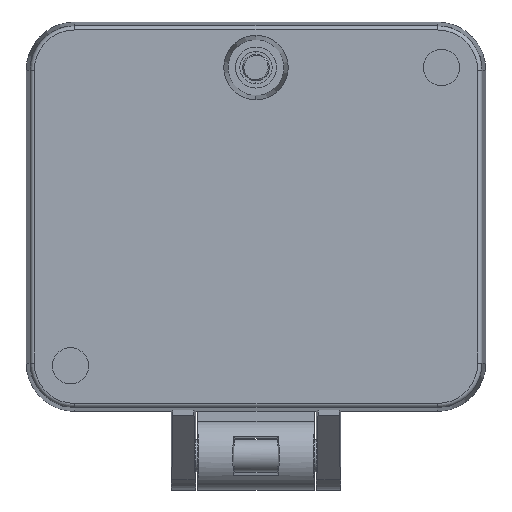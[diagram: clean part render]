
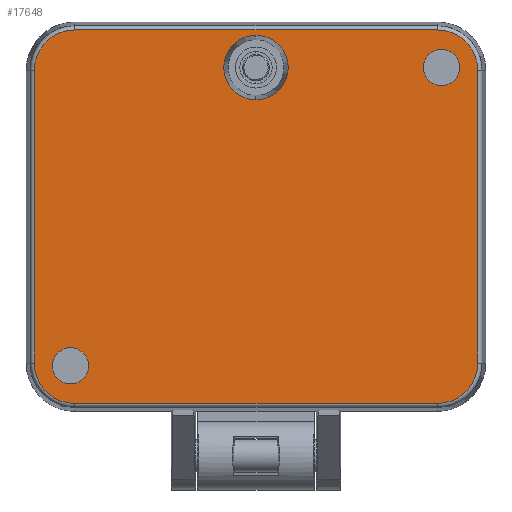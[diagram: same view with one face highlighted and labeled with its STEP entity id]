
A CAD part, front view. The second image highlights one B-rep face of the part: STEP entity #17648.
In plain terms, the highlighted planar face has unit normal (0, -1, 0).
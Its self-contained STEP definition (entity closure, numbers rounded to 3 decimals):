
#65 = CARTESIAN_POINT ( 'NONE',  ( -23., -28.4, -20.75 ) ) ;
#73 = VERTEX_POINT ( 'NONE', #16133 ) ;
#546 = FACE_BOUND ( 'NONE', #12474, .T. ) ;
#547 = DIRECTION ( 'NONE',  ( 0., -1., 0. ) ) ;
#713 = DIRECTION ( 'NONE',  ( 1., 0., 0. ) ) ;
#952 = ORIENTED_EDGE ( 'NONE', *, *, #2085, .F. ) ;
#1136 = EDGE_CURVE ( 'NONE', #1832, #6900, #7401, .T. ) ;
#1507 = CARTESIAN_POINT ( 'NONE',  ( 0., -28.4, 18.5 ) ) ;
#1562 = VECTOR ( 'NONE', #713, 1000. ) ;
#1832 = VERTEX_POINT ( 'NONE', #9852 ) ;
#1938 = AXIS2_PLACEMENT_3D ( 'NONE', #16210, #547, #16304 ) ;
#2085 = EDGE_CURVE ( 'NONE', #17286, #10731, #17857, .T. ) ;
#2104 = AXIS2_PLACEMENT_3D ( 'NONE', #14018, #11256, #15761 ) ;
#2401 = FACE_BOUND ( 'NONE', #16544, .T. ) ;
#2868 = DIRECTION ( 'NONE',  ( 0., 1., 0. ) ) ;
#3067 = CIRCLE ( 'NONE', #4820, 4. ) ;
#3241 = DIRECTION ( 'NONE',  ( 0., 1., 0. ) ) ;
#3468 = EDGE_CURVE ( 'NONE', #6900, #14501, #13398, .T. ) ;
#3479 = VERTEX_POINT ( 'NONE', #11698 ) ;
#3535 = CIRCLE ( 'NONE', #13823, 5.013 ) ;
#3707 = AXIS2_PLACEMENT_3D ( 'NONE', #7048, #3241, #4288 ) ;
#3765 = DIRECTION ( 'NONE',  ( 0., 0., 1. ) ) ;
#3933 = VECTOR ( 'NONE', #5204, 1000. ) ;
#4180 = ORIENTED_EDGE ( 'NONE', *, *, #5239, .T. ) ;
#4288 = DIRECTION ( 'NONE',  ( 0., 0., 1. ) ) ;
#4289 = CARTESIAN_POINT ( 'NONE',  ( 27.513, -28.4, -18.15 ) ) ;
#4530 = DIRECTION ( 'NONE',  ( 0., 0., 1. ) ) ;
#4815 = VERTEX_POINT ( 'NONE', #65 ) ;
#4820 = AXIS2_PLACEMENT_3D ( 'NONE', #1507, #12566, #14031 ) ;
#5126 = CIRCLE ( 'NONE', #6278, 5.013 ) ;
#5204 = DIRECTION ( 'NONE',  ( 0., 0., 1. ) ) ;
#5239 = EDGE_CURVE ( 'NONE', #6234, #3479, #12371, .T. ) ;
#5454 = EDGE_CURVE ( 'NONE', #6247, #1832, #5126, .T. ) ;
#5591 = DIRECTION ( 'NONE',  ( 0., 1., 0. ) ) ;
#5633 = EDGE_CURVE ( 'NONE', #13410, #6234, #8339, .T. ) ;
#5806 = DIRECTION ( 'NONE',  ( 0., 0., 1. ) ) ;
#5839 = ORIENTED_EDGE ( 'NONE', *, *, #3468, .T. ) ;
#6155 = ORIENTED_EDGE ( 'NONE', *, *, #10907, .T. ) ;
#6173 = CARTESIAN_POINT ( 'NONE',  ( -22.5, -28.4, 18.15 ) ) ;
#6180 = CIRCLE ( 'NONE', #17054, 2.25 ) ;
#6234 = VERTEX_POINT ( 'NONE', #4289 ) ;
#6247 = VERTEX_POINT ( 'NONE', #12755 ) ;
#6262 = DIRECTION ( 'NONE',  ( 0., 0., 1. ) ) ;
#6278 = AXIS2_PLACEMENT_3D ( 'NONE', #7565, #15937, #15757 ) ;
#6659 = EDGE_CURVE ( 'NONE', #4815, #9485, #16802, .T. ) ;
#6752 = ORIENTED_EDGE ( 'NONE', *, *, #16007, .T. ) ;
#6900 = VERTEX_POINT ( 'NONE', #9318 ) ;
#7048 = CARTESIAN_POINT ( 'NONE',  ( 23., -28.4, 18.5 ) ) ;
#7388 = ORIENTED_EDGE ( 'NONE', *, *, #6659, .T. ) ;
#7401 = LINE ( 'NONE', #17261, #14770 ) ;
#7436 = CIRCLE ( 'NONE', #16269, 2.25 ) ;
#7565 = CARTESIAN_POINT ( 'NONE',  ( -22.5, -28.4, 18.15 ) ) ;
#7711 = CARTESIAN_POINT ( 'NONE',  ( 22.5, -28.4, -23.163 ) ) ;
#7917 = ORIENTED_EDGE ( 'NONE', *, *, #11971, .T. ) ;
#8010 = FACE_BOUND ( 'NONE', #9995, .T. ) ;
#8339 = CIRCLE ( 'NONE', #10097, 5.013 ) ;
#8384 = ORIENTED_EDGE ( 'NONE', *, *, #16108, .T. ) ;
#8595 = CARTESIAN_POINT ( 'NONE',  ( 22.5, -28.4, 23.163 ) ) ;
#8734 = CARTESIAN_POINT ( 'NONE',  ( 0., -28.4, 18.5 ) ) ;
#8864 = ORIENTED_EDGE ( 'NONE', *, *, #16577, .F. ) ;
#9004 = DIRECTION ( 'NONE',  ( 0., -1., 0. ) ) ;
#9007 = LINE ( 'NONE', #7711, #1562 ) ;
#9055 = CARTESIAN_POINT ( 'NONE',  ( -23., -28.4, -16.25 ) ) ;
#9318 = CARTESIAN_POINT ( 'NONE',  ( -27.513, -28.4, -18.15 ) ) ;
#9398 = FACE_OUTER_BOUND ( 'NONE', #15337, .T. ) ;
#9485 = VERTEX_POINT ( 'NONE', #9055 ) ;
#9529 = ORIENTED_EDGE ( 'NONE', *, *, #17776, .T. ) ;
#9852 = CARTESIAN_POINT ( 'NONE',  ( -27.513, -28.4, 18.15 ) ) ;
#9995 = EDGE_LOOP ( 'NONE', ( #8384, #7388 ) ) ;
#10097 = AXIS2_PLACEMENT_3D ( 'NONE', #13877, #16833, #15446 ) ;
#10322 = CARTESIAN_POINT ( 'NONE',  ( 22.5, -28.4, 18.15 ) ) ;
#10670 = ORIENTED_EDGE ( 'NONE', *, *, #5454, .T. ) ;
#10731 = VERTEX_POINT ( 'NONE', #13914 ) ;
#10907 = EDGE_CURVE ( 'NONE', #3479, #14560, #3535, .T. ) ;
#10923 = LINE ( 'NONE', #16355, #13362 ) ;
#11256 = DIRECTION ( 'NONE',  ( 0., 1., 0. ) ) ;
#11329 = CARTESIAN_POINT ( 'NONE',  ( 23., -28.4, 18.5 ) ) ;
#11345 = DIRECTION ( 'NONE',  ( 0., -1., 0. ) ) ;
#11639 = CIRCLE ( 'NONE', #3707, 2.25 ) ;
#11698 = CARTESIAN_POINT ( 'NONE',  ( 27.513, -28.4, 18.15 ) ) ;
#11782 = DIRECTION ( 'NONE',  ( 0., 1., 0. ) ) ;
#11971 = EDGE_CURVE ( 'NONE', #16938, #73, #6180, .T. ) ;
#12371 = LINE ( 'NONE', #13656, #3933 ) ;
#12474 = EDGE_LOOP ( 'NONE', ( #952, #8864 ) ) ;
#12566 = DIRECTION ( 'NONE',  ( 0., -1., 0. ) ) ;
#12721 = CARTESIAN_POINT ( 'NONE',  ( 23., -28.4, 16.25 ) ) ;
#12755 = CARTESIAN_POINT ( 'NONE',  ( -22.5, -28.4, 23.163 ) ) ;
#12802 = EDGE_CURVE ( 'NONE', #73, #16938, #11639, .T. ) ;
#13330 = CARTESIAN_POINT ( 'NONE',  ( 22.5, -28.4, -23.163 ) ) ;
#13362 = VECTOR ( 'NONE', #16533, 1000. ) ;
#13398 = CIRCLE ( 'NONE', #1938, 5.013 ) ;
#13410 = VERTEX_POINT ( 'NONE', #13330 ) ;
#13656 = CARTESIAN_POINT ( 'NONE',  ( 27.513, -28.4, 18.15 ) ) ;
#13823 = AXIS2_PLACEMENT_3D ( 'NONE', #10322, #11345, #4530 ) ;
#13877 = CARTESIAN_POINT ( 'NONE',  ( 22.5, -28.4, -18.15 ) ) ;
#13914 = CARTESIAN_POINT ( 'NONE',  ( 0., -28.4, 22.5 ) ) ;
#14018 = CARTESIAN_POINT ( 'NONE',  ( -23., -28.4, -18.5 ) ) ;
#14031 = DIRECTION ( 'NONE',  ( 0., 0., -1. ) ) ;
#14501 = VERTEX_POINT ( 'NONE', #16434 ) ;
#14560 = VERTEX_POINT ( 'NONE', #8595 ) ;
#14582 = ORIENTED_EDGE ( 'NONE', *, *, #1136, .T. ) ;
#14770 = VECTOR ( 'NONE', #15785, 1000. ) ;
#14831 = ORIENTED_EDGE ( 'NONE', *, *, #12802, .T. ) ;
#15337 = EDGE_LOOP ( 'NONE', ( #9529, #10670, #14582, #5839, #6752, #17152, #4180, #6155 ) ) ;
#15446 = DIRECTION ( 'NONE',  ( 0., 0., 1. ) ) ;
#15757 = DIRECTION ( 'NONE',  ( 0., 0., 1. ) ) ;
#15761 = DIRECTION ( 'NONE',  ( 0., 0., 1. ) ) ;
#15785 = DIRECTION ( 'NONE',  ( 0., 0., -1. ) ) ;
#15814 = DIRECTION ( 'NONE',  ( 0., 0., -1. ) ) ;
#15937 = DIRECTION ( 'NONE',  ( 0., -1., 0. ) ) ;
#16007 = EDGE_CURVE ( 'NONE', #14501, #13410, #9007, .T. ) ;
#16082 = AXIS2_PLACEMENT_3D ( 'NONE', #8734, #9004, #15814 ) ;
#16108 = EDGE_CURVE ( 'NONE', #9485, #4815, #7436, .T. ) ;
#16133 = CARTESIAN_POINT ( 'NONE',  ( 23., -28.4, 20.75 ) ) ;
#16210 = CARTESIAN_POINT ( 'NONE',  ( -22.5, -28.4, -18.15 ) ) ;
#16269 = AXIS2_PLACEMENT_3D ( 'NONE', #17941, #5591, #3765 ) ;
#16304 = DIRECTION ( 'NONE',  ( 0., 0., 1. ) ) ;
#16355 = CARTESIAN_POINT ( 'NONE',  ( -22.5, -28.4, 23.163 ) ) ;
#16401 = CARTESIAN_POINT ( 'NONE',  ( 0., -28.4, 14.5 ) ) ;
#16434 = CARTESIAN_POINT ( 'NONE',  ( -22.5, -28.4, -23.163 ) ) ;
#16533 = DIRECTION ( 'NONE',  ( -1., 0., 0. ) ) ;
#16544 = EDGE_LOOP ( 'NONE', ( #14831, #7917 ) ) ;
#16577 = EDGE_CURVE ( 'NONE', #10731, #17286, #3067, .T. ) ;
#16802 = CIRCLE ( 'NONE', #2104, 2.25 ) ;
#16833 = DIRECTION ( 'NONE',  ( 0., -1., 0. ) ) ;
#16938 = VERTEX_POINT ( 'NONE', #12721 ) ;
#17054 = AXIS2_PLACEMENT_3D ( 'NONE', #11329, #2868, #5806 ) ;
#17152 = ORIENTED_EDGE ( 'NONE', *, *, #5633, .T. ) ;
#17261 = CARTESIAN_POINT ( 'NONE',  ( -27.513, -28.4, -18.15 ) ) ;
#17286 = VERTEX_POINT ( 'NONE', #16401 ) ;
#17405 = PLANE ( 'NONE',  #17781 ) ;
#17648 = ADVANCED_FACE ( 'NONE', ( #546, #9398, #2401, #8010 ), #17405, .F. ) ;
#17776 = EDGE_CURVE ( 'NONE', #14560, #6247, #10923, .T. ) ;
#17781 = AXIS2_PLACEMENT_3D ( 'NONE', #6173, #11782, #6262 ) ;
#17857 = CIRCLE ( 'NONE', #16082, 4. ) ;
#17941 = CARTESIAN_POINT ( 'NONE',  ( -23., -28.4, -18.5 ) ) ;
